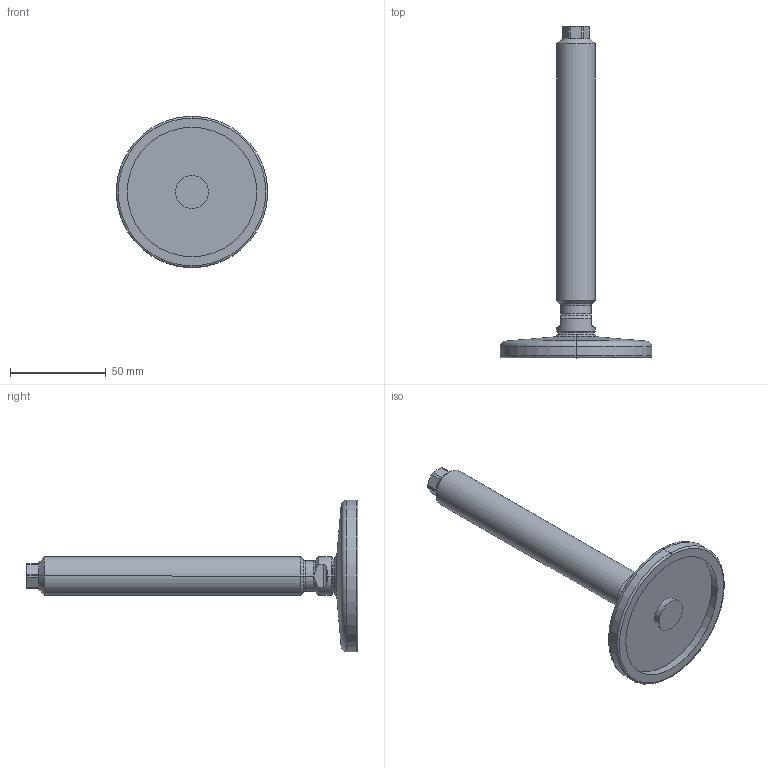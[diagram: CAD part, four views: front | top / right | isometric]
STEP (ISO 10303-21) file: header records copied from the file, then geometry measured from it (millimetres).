
FILE_DESCRIPTION (( 'STEP AP214' ), '1' );
FILE_NAME ('21-80-M20-150-D0-V.step', '2020-10-02T17:35:53', ( '' ), ( '' ), 'SwSTEP 2.0', 'SolidWorks 2019', '' );
FILE_SCHEMA (( 'AUTOMOTIVE_DESIGN' ));
Length unit declared in the file: millimetre
Products named in the file (3): 21-80-M20-150-D0-V; WB21_Fußteller 21^WB21_V_D0-080-R12-B9 (M20); WB21_Spindel_V^WB21_V_M20-150
Assembly tree (2 placements, depth 2):
  21-80-M20-150-D0-V
    WB21_Fußteller 21^WB21_V_D0-080-R12-B9 (M20)
    WB21_Spindel_V^WB21_V_M20-150
Bounding box: 79 x 173.02 x 79 mm (x, y, z)
Volume: 79759.7 mm3; surface area: 23683.8 mm2
Topology: 2 solids, 2 shells, 79 faces, 177 edges, 105 vertices
Faces by surface type: cylinder 23, cone 21, plane 21, torus 10, sphere 4
Entity records: 2434 total; most frequent: CARTESIAN_POINT 518, DIRECTION 406, ORIENTED_EDGE 354, EDGE_CURVE 177, AXIS2_PLACEMENT_3D 173, VERTEX_POINT 105, CIRCLE 89, EDGE_LOOP 82
